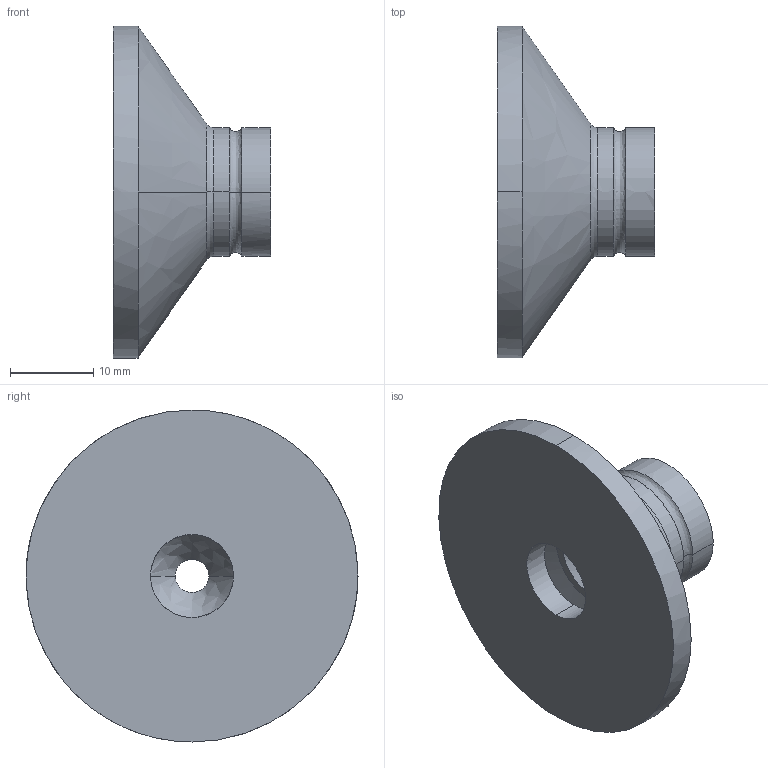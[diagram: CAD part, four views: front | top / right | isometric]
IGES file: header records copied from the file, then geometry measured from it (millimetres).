
Start section:  PTC IGES file: 210537_vaph-40c-sp.igs
Global section: file name: 210537_vaph-40c-sp.igs; native system: Pro/ENGINEER by Parametric Technology Corporation; preprocessor: 2004090; author: KAIHATSU01; organization: Unknown; date: 061017.105550; units: millimetre
Bounding box: 19 x 40 x 40 mm (x, y, z)
Volume: 8182.5 mm3; surface area: 6120.9 mm2
Topology: 1 solids, 1 shells, 30 faces, 62 edges, 38 vertices
Faces by surface type: bspline 30
